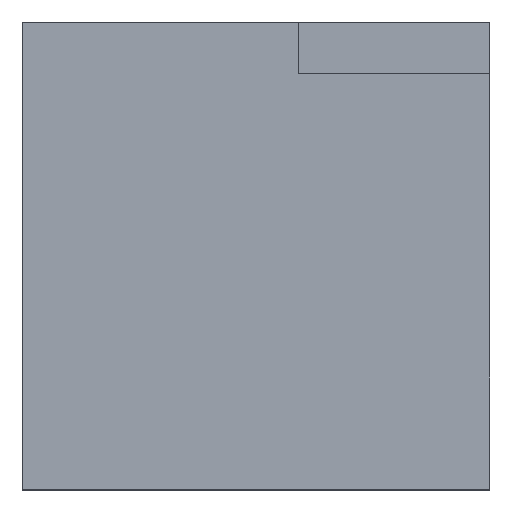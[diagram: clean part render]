
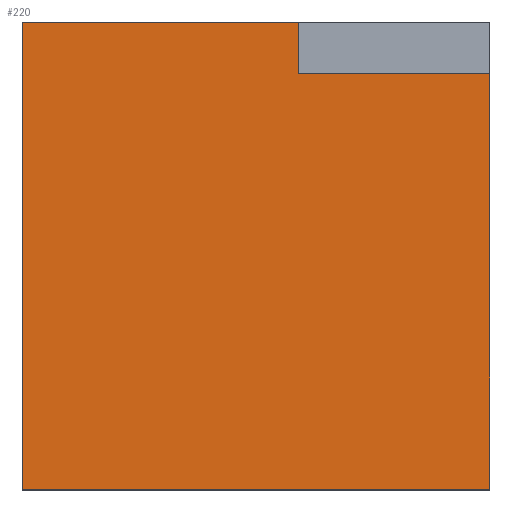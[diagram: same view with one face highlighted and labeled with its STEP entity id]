
A CAD part, top view. The second image highlights one B-rep face of the part: STEP entity #220.
In plain terms, the highlighted planar face has unit normal (0, 0, 1).
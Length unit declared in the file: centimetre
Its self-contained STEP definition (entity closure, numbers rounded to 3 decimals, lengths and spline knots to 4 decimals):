
#18 = CARTESIAN_POINT ( 'NONE',  ( 591.018, 889.7708, 1000. ) ) ;
#20 = VERTEX_POINT ( 'NONE', #497 ) ;
#25 = CARTESIAN_POINT ( 'NONE',  ( 0., 0., 1000. ) ) ;
#36 = DIRECTION ( 'NONE',  ( 0., 1., 0. ) ) ;
#43 = VECTOR ( 'NONE', #422, 100. ) ;
#47 = AXIS2_PLACEMENT_3D ( 'NONE', #462, #121, #628 ) ;
#50 = EDGE_CURVE ( 'NONE', #540, #20, #149, .T. ) ;
#52 = EDGE_LOOP ( 'NONE', ( #703, #515, #690, #695, #224, #236 ) ) ;
#73 = VECTOR ( 'NONE', #596, 100. ) ;
#76 = VECTOR ( 'NONE', #705, 100. ) ;
#77 = CARTESIAN_POINT ( 'NONE',  ( 1000., 1000., 1000. ) ) ;
#121 = DIRECTION ( 'NONE',  ( 0., 0., 1. ) ) ;
#133 = LINE ( 'NONE', #18, #373 ) ;
#136 = LINE ( 'NONE', #363, #73 ) ;
#145 = DIRECTION ( 'NONE',  ( 0., -1., 0. ) ) ;
#149 = LINE ( 'NONE', #438, #692 ) ;
#206 = CARTESIAN_POINT ( 'NONE',  ( 0., 0., 1000. ) ) ;
#220 = ADVANCED_FACE ( 'NONE', ( #233 ), #338, .T. ) ;
#224 = ORIENTED_EDGE ( 'NONE', *, *, #323, .T. ) ;
#233 = FACE_OUTER_BOUND ( 'NONE', #52, .T. ) ;
#236 = ORIENTED_EDGE ( 'NONE', *, *, #663, .F. ) ;
#253 = VERTEX_POINT ( 'NONE', #260 ) ;
#260 = CARTESIAN_POINT ( 'NONE',  ( 0., 1000., 1000. ) ) ;
#323 = EDGE_CURVE ( 'NONE', #459, #717, #412, .T. ) ;
#327 = CARTESIAN_POINT ( 'NONE',  ( 1000., 0., 1000. ) ) ;
#338 = PLANE ( 'NONE',  #47 ) ;
#343 = EDGE_CURVE ( 'NONE', #447, #459, #541, .T. ) ;
#363 = CARTESIAN_POINT ( 'NONE',  ( 0., 1000., 1000. ) ) ;
#373 = VECTOR ( 'NONE', #699, 100. ) ;
#393 = EDGE_CURVE ( 'NONE', #540, #253, #136, .T. ) ;
#410 = CARTESIAN_POINT ( 'NONE',  ( 1000., 889.7708, 1000. ) ) ;
#412 = LINE ( 'NONE', #77, #631 ) ;
#422 = DIRECTION ( 'NONE',  ( 1., 0., 0. ) ) ;
#438 = CARTESIAN_POINT ( 'NONE',  ( 591.018, 889.7708, 1000. ) ) ;
#447 = VERTEX_POINT ( 'NONE', #206 ) ;
#459 = VERTEX_POINT ( 'NONE', #327 ) ;
#462 = CARTESIAN_POINT ( 'NONE',  ( 0., 0., 1000. ) ) ;
#494 = CARTESIAN_POINT ( 'NONE',  ( 0., 1000., 1000. ) ) ;
#497 = CARTESIAN_POINT ( 'NONE',  ( 591.018, 889.7708, 1000. ) ) ;
#515 = ORIENTED_EDGE ( 'NONE', *, *, #393, .T. ) ;
#540 = VERTEX_POINT ( 'NONE', #564 ) ;
#541 = LINE ( 'NONE', #25, #43 ) ;
#564 = CARTESIAN_POINT ( 'NONE',  ( 591.018, 1000., 1000. ) ) ;
#596 = DIRECTION ( 'NONE',  ( -1., 0., 0. ) ) ;
#628 = DIRECTION ( 'NONE',  ( 1., 0., 0. ) ) ;
#631 = VECTOR ( 'NONE', #36, 100. ) ;
#648 = LINE ( 'NONE', #494, #76 ) ;
#663 = EDGE_CURVE ( 'NONE', #20, #717, #133, .T. ) ;
#690 = ORIENTED_EDGE ( 'NONE', *, *, #738, .T. ) ;
#692 = VECTOR ( 'NONE', #145, 100. ) ;
#695 = ORIENTED_EDGE ( 'NONE', *, *, #343, .T. ) ;
#699 = DIRECTION ( 'NONE',  ( 1., 0., 0. ) ) ;
#703 = ORIENTED_EDGE ( 'NONE', *, *, #50, .F. ) ;
#705 = DIRECTION ( 'NONE',  ( 0., -1., 0. ) ) ;
#717 = VERTEX_POINT ( 'NONE', #410 ) ;
#738 = EDGE_CURVE ( 'NONE', #253, #447, #648, .T. ) ;
